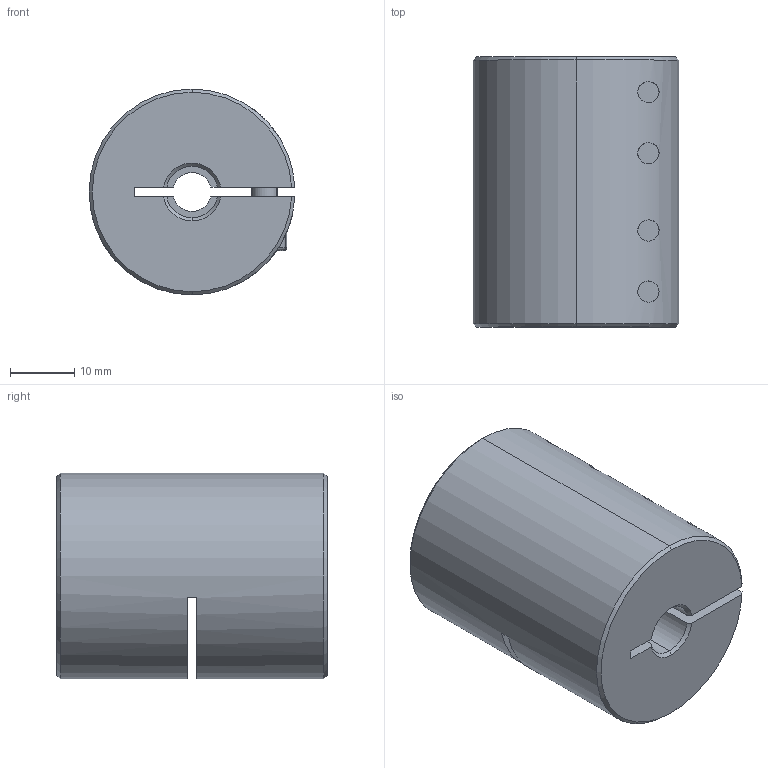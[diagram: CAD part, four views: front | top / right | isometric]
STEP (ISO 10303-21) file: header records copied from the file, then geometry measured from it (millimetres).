
FILE_DESCRIPTION (( 'STEP AP203' ), '1' );
FILE_NAME ('LL-B-D32L42-6-8.STEP', '2021-11-05T07:34:21', ( '' ), ( '' ), 'SwSTEP 2.0', 'SolidWorks 2018', '' );
FILE_SCHEMA (( 'CONFIG_CONTROL_DESIGN' ));
Length unit declared in the file: millimetre
Products named in the file (1): LL-B-D32L42-6-8
Bounding box: 31.98 x 42 x 32 mm (x, y, z)
Volume: 29553.7 mm3; surface area: 10285.1 mm2
Topology: 1 solids, 1 shells, 193 faces, 492 edges, 309 vertices
Faces by surface type: plane 88, cylinder 77, cone 20, torus 8
Entity records: 6376 total; most frequent: CARTESIAN_POINT 1559, DIRECTION 1037, ORIENTED_EDGE 968, EDGE_CURVE 484, AXIS2_PLACEMENT_3D 403, VERTEX_POINT 309, VECTOR 231, LINE 231
